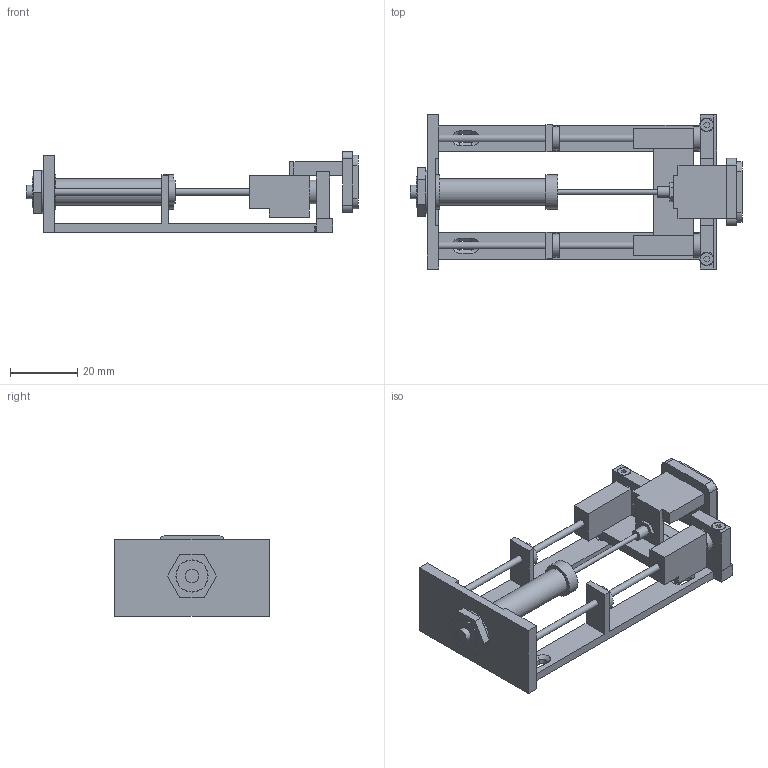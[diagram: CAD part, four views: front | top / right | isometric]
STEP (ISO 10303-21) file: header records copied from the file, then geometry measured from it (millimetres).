
FILE_DESCRIPTION(('Open CASCADE Model'),'2;1');
FILE_NAME('Open CASCADE Shape Model','2026-09-09T10:24:08',('Author'),( 'Open CASCADE'),'Open CASCADE STEP processor 7.8','Open CASCADE 7.8' ,'Unknown');
FILE_SCHEMA(('AUTOMOTIVE_DESIGN { 1 0 10303 214 1 1 1 1 }'));
Length unit declared in the file: millimetre
Products named in the file (28): LightBender_Airpot_22mm_V1; P01_Base_rear_flange; P02_Front_bridge; P03_Carriage_contact_head; P04_Contact_pad; B01_Shaft_L; B02_igus_GSM020303_L1; B02_igus_GSM020303_L2; P05_Bumper_L_rear; P05_Bumper_L_front; B01_Shaft_R; B02_igus_GSM020303_R1; B02_igus_GSM020303_R2; P05_Bumper_R_rear; P05_Bumper_R_front; B03_Airpot_glass_envelope; B04_Airpot_head_thread_envelope; B05_Airpot_front_cap; B06_Airpot_adjuster_envelope; B07_Airpot_mount_washer; B08_Airpot_mount_nut; B09_Airpot_piston_NF_rod; B10_NF_lockwasher; B11_NF_2_64_nut; B12_M2x16_L; B13_M2_nut_L; B12_M2x16_R; B13_M2_nut_R
Assembly tree (27 placements, depth 2):
  LightBender_Airpot_22mm_V1
    P01_Base_rear_flange
    P02_Front_bridge
    P03_Carriage_contact_head
    P04_Contact_pad
    B01_Shaft_L
    B02_igus_GSM020303_L1
    B02_igus_GSM020303_L2
    P05_Bumper_L_rear
    P05_Bumper_L_front
    B01_Shaft_R
    B02_igus_GSM020303_R1
    B02_igus_GSM020303_R2
    P05_Bumper_R_rear
    P05_Bumper_R_front
    B03_Airpot_glass_envelope
    B04_Airpot_head_thread_envelope
    B05_Airpot_front_cap
    B06_Airpot_adjuster_envelope
    B07_Airpot_mount_washer
    B08_Airpot_mount_nut
    B09_Airpot_piston_NF_rod
    B10_NF_lockwasher
    B11_NF_2_64_nut
    B12_M2x16_L
    B13_M2_nut_L
    B12_M2x16_R
    B13_M2_nut_R
Bounding box: 99.06 x 46 x 24 mm (x, y, z)
Volume: 17541.7 mm3; surface area: 19315.9 mm2
Topology: 27 solids, 28 shells, 321 faces, 701 edges, 462 vertices
Faces by surface type: plane 224, cylinder 89, cone 8
Full cylindrical faces by diameter (mm): 1 x1, 1.473 x1, 2 x5, 2.034 x4, 2.04 x4, 2.1 x2, 2.184 x1, 2.2 x4, 2.22 x2, 2.3 x2, 2.4 x6, 2.5 x1, 3.2 x1, 3.5 x8, 3.8 x2, 4 x1, 4.572 x1, 4.6 x5, 4.9 x4, 5.4 x1, 5.588 x1, 7 x4, 7.899 x1, 9.525 x1, 9.6 x2, 10 x1, 10.16 x2, 13 x1
Entity records: 18592 total; most frequent: CARTESIAN_POINT 3430, DIRECTION 2716, LINE 1517, VECTOR 1517, ORIENTED_EDGE 1402, PCURVE 1402, DEFINITIONAL_REPRESENTATION 1402, EDGE_CURVE 701
